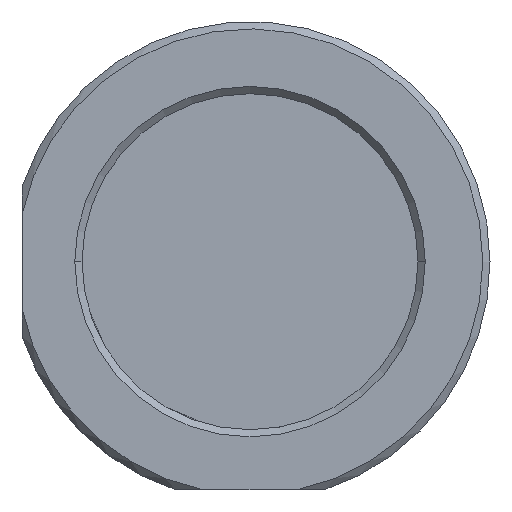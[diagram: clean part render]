
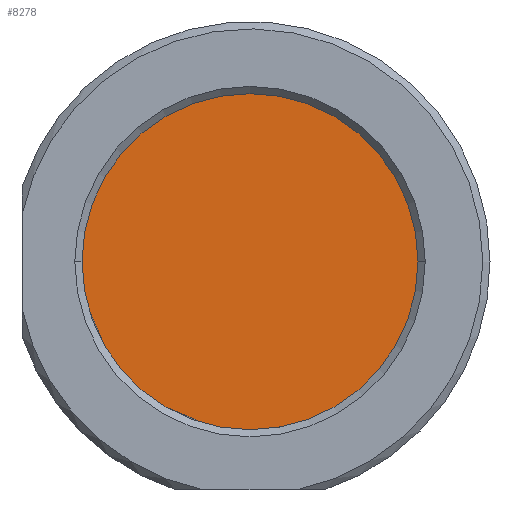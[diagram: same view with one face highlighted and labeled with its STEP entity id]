
A CAD part, left-side view. The second image highlights one B-rep face of the part: STEP entity #8278.
In plain terms, the highlighted planar face has unit normal (-1, 0, 0).
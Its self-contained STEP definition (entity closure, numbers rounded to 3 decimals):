
#3986=CARTESIAN_POINT('',(97.1,0.,0.));
#3987=DIRECTION('',(1.,0.,0.));
#3988=DIRECTION('',(0.,1.,0.));
#3989=AXIS2_PLACEMENT_3D('',#3986,#3987,#3988);
#3991=CARTESIAN_POINT('',(97.1,0.,0.));
#3992=DIRECTION('',(1.,0.,0.));
#3993=DIRECTION('',(0.,-1.,0.));
#3994=AXIS2_PLACEMENT_3D('',#3991,#3992,#3993);
#4251=CARTESIAN_POINT('',(97.1,7.,0.));
#4252=VERTEX_POINT('',#4251);
#4253=CARTESIAN_POINT('',(97.1,-7.,0.));
#4254=VERTEX_POINT('',#4253);
#8269=CARTESIAN_POINT('',(97.1,0.,-7.));
#8270=DIRECTION('',(1.,0.,0.));
#8271=DIRECTION('',(0.,1.,0.));
#8272=AXIS2_PLACEMENT_3D('',#8269,#8270,#8271);
#8273=PLANE('',#8272);
#8274=ORIENTED_EDGE('',*,*,#5018,.T.);
#8275=ORIENTED_EDGE('',*,*,#4710,.T.);
#8276=EDGE_LOOP('',(#8274,#8275));
#8277=FACE_OUTER_BOUND('',#8276,.F.);
#8278=ADVANCED_FACE('',(#8277),#8273,.F.);
#3990=CIRCLE('',#3989,7.);
#3995=CIRCLE('',#3994,7.);
#4710=EDGE_CURVE('',#4254,#4252,#3995,.T.);
#5018=EDGE_CURVE('',#4252,#4254,#3990,.T.);
